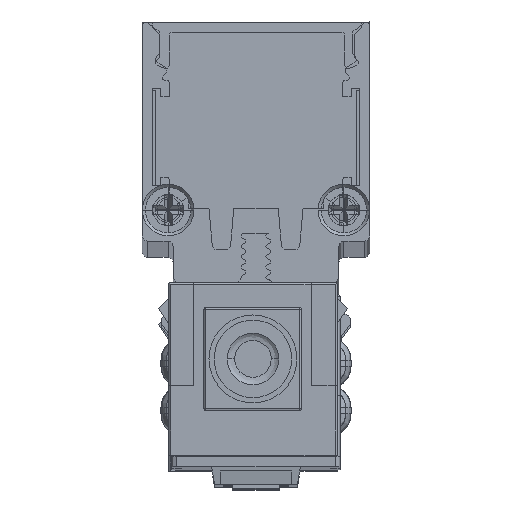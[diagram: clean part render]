
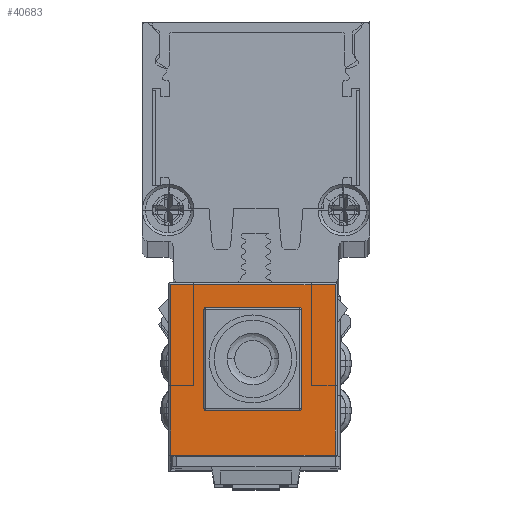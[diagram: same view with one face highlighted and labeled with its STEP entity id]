
A CAD part, top view. The second image highlights one B-rep face of the part: STEP entity #40683.
In plain terms, the highlighted planar face has unit normal (0, 0, 1) as drawn and (-1, 0, 0) by its records, which use the part's own axes.
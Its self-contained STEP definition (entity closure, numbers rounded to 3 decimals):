
#2678 = VERTEX_POINT ( 'NONE', #57426 ) ;
#3668 = CARTESIAN_POINT ( 'NONE',  ( -6.5, -4.75, 2.6 ) ) ;
#4070 = DIRECTION ( 'NONE',  ( 0., 1., 0. ) ) ;
#4099 = CARTESIAN_POINT ( 'NONE',  ( -6.5, 4.75, 16.7 ) ) ;
#4449 = CARTESIAN_POINT ( 'NONE',  ( -6.5, 4.55, 12.4 ) ) ;
#4622 = DIRECTION ( 'NONE',  ( -1., 0., 0. ) ) ;
#5021 = DIRECTION ( 'NONE',  ( -1., 0., 0. ) ) ;
#5292 = FACE_BOUND ( 'NONE', #101853, .T. ) ;
#5752 = VERTEX_POINT ( 'NONE', #4449 ) ;
#7627 = LINE ( 'NONE', #41126, #103900 ) ;
#8562 = LINE ( 'NONE', #42045, #99565 ) ;
#8848 = ORIENTED_EDGE ( 'NONE', *, *, #22516, .F. ) ;
#9521 = ORIENTED_EDGE ( 'NONE', *, *, #64949, .F. ) ;
#9548 = ORIENTED_EDGE ( 'NONE', *, *, #75013, .F. ) ;
#10037 = LINE ( 'NONE', #43530, #71568 ) ;
#10435 = CIRCLE ( 'NONE', #71829, 0.2 ) ;
#11660 = CARTESIAN_POINT ( 'NONE',  ( -6.5, -4.55, 2.6 ) ) ;
#12026 = CARTESIAN_POINT ( 'NONE',  ( -6.5, 8.15, 2.4 ) ) ;
#16811 = VERTEX_POINT ( 'NONE', #22138 ) ;
#18939 = CIRCLE ( 'NONE', #80335, 0.2 ) ;
#19066 = CARTESIAN_POINT ( 'NONE',  ( -6.5, -4.75, 12.2 ) ) ;
#20958 = ORIENTED_EDGE ( 'NONE', *, *, #86404, .F. ) ;
#22138 = CARTESIAN_POINT ( 'NONE',  ( -6.5, 4.75, 2.6 ) ) ;
#22516 = EDGE_CURVE ( 'NONE', #94605, #2678, #87289, .T. ) ;
#25315 = CARTESIAN_POINT ( 'NONE',  ( -6.5, 8.15, 0.2 ) ) ;
#26027 = EDGE_CURVE ( 'NONE', #68580, #16811, #79354, .T. ) ;
#26991 = DIRECTION ( 'NONE',  ( 0., 1., 0. ) ) ;
#28600 = ORIENTED_EDGE ( 'NONE', *, *, #31747, .F. ) ;
#29021 = VERTEX_POINT ( 'NONE', #99338 ) ;
#29368 = VERTEX_POINT ( 'NONE', #66817 ) ;
#30269 = ORIENTED_EDGE ( 'NONE', *, *, #32390, .F. ) ;
#30794 = LINE ( 'NONE', #64298, #33782 ) ;
#31747 = EDGE_CURVE ( 'NONE', #70353, #53339, #8562, .T. ) ;
#32111 = DIRECTION ( 'NONE',  ( 1., 0., 0. ) ) ;
#32356 = EDGE_CURVE ( 'NONE', #38977, #64157, #10037, .T. ) ;
#32390 = EDGE_CURVE ( 'NONE', #64157, #87607, #18939, .T. ) ;
#33339 = VECTOR ( 'NONE', #4070, 1000. ) ;
#33782 = VECTOR ( 'NONE', #97775, 1000. ) ;
#33786 = ORIENTED_EDGE ( 'NONE', *, *, #100997, .F. ) ;
#37592 = DIRECTION ( 'NONE',  ( 0., 0., -1. ) ) ;
#38114 = DIRECTION ( 'NONE',  ( 0., 1., 0. ) ) ;
#38513 = DIRECTION ( 'NONE',  ( 0., 1., 0. ) ) ;
#38801 = FACE_OUTER_BOUND ( 'NONE', #72902, .T. ) ;
#38977 = VERTEX_POINT ( 'NONE', #3668 ) ;
#40683 = ADVANCED_FACE ( 'NONE', ( #5292, #38801 ), #72336, .F. ) ;
#41126 = CARTESIAN_POINT ( 'NONE',  ( -6.5, 0., 16.7 ) ) ;
#42045 = CARTESIAN_POINT ( 'NONE',  ( -6.5, 7.95, 16.7 ) ) ;
#43530 = CARTESIAN_POINT ( 'NONE',  ( -6.5, -4.75, 16.7 ) ) ;
#45165 = DIRECTION ( 'NONE',  ( -1., 0., 0. ) ) ;
#45496 = CIRCLE ( 'NONE', #106864, 0.2 ) ;
#45528 = DIRECTION ( 'NONE',  ( 0., -1., 0. ) ) ;
#45799 = LINE ( 'NONE', #79318, #33339 ) ;
#46407 = AXIS2_PLACEMENT_3D ( 'NONE', #105808, #32111, #65639 ) ;
#47159 = CARTESIAN_POINT ( 'NONE',  ( -6.5, 4.75, 12.2 ) ) ;
#50631 = ORIENTED_EDGE ( 'NONE', *, *, #32356, .F. ) ;
#53339 = VERTEX_POINT ( 'NONE', #58226 ) ;
#55257 = ORIENTED_EDGE ( 'NONE', *, *, #97488, .F. ) ;
#55797 = EDGE_CURVE ( 'NONE', #29368, #29021, #30794, .T. ) ;
#57426 = CARTESIAN_POINT ( 'NONE',  ( -6.5, -4.55, 2.4 ) ) ;
#58226 = CARTESIAN_POINT ( 'NONE',  ( -6.5, 7.95, 16.7 ) ) ;
#58820 = DIRECTION ( 'NONE',  ( 0., 1., 0. ) ) ;
#60621 = AXIS2_PLACEMENT_3D ( 'NONE', #68717, #102198, #26991 ) ;
#60894 = VECTOR ( 'NONE', #37592, 1000. ) ;
#64157 = VERTEX_POINT ( 'NONE', #19066 ) ;
#64298 = CARTESIAN_POINT ( 'NONE',  ( -6.5, -7.95, 16.7 ) ) ;
#64949 = EDGE_CURVE ( 'NONE', #53339, #29368, #7627, .T. ) ;
#65639 = DIRECTION ( 'NONE',  ( 0., 1., 0. ) ) ;
#66700 = ORIENTED_EDGE ( 'NONE', *, *, #70044, .F. ) ;
#66817 = CARTESIAN_POINT ( 'NONE',  ( -6.5, -7.95, 16.7 ) ) ;
#68580 = VERTEX_POINT ( 'NONE', #47159 ) ;
#68717 = CARTESIAN_POINT ( 'NONE',  ( -6.5, 4.55, 12.2 ) ) ;
#70044 = EDGE_CURVE ( 'NONE', #16811, #94605, #45496, .T. ) ;
#70353 = VERTEX_POINT ( 'NONE', #85296 ) ;
#71568 = VECTOR ( 'NONE', #77038, 1000. ) ;
#71829 = AXIS2_PLACEMENT_3D ( 'NONE', #11660, #45165, #78663 ) ;
#72336 = PLANE ( 'NONE',  #46407 ) ;
#72902 = EDGE_LOOP ( 'NONE', ( #55257, #93662, #9521, #28600 ) ) ;
#73139 = VECTOR ( 'NONE', #58820, 1000. ) ;
#74652 = DIRECTION ( 'NONE',  ( 0., -1., 0. ) ) ;
#75013 = EDGE_CURVE ( 'NONE', #87607, #5752, #45799, .T. ) ;
#75585 = DIRECTION ( 'NONE',  ( 0., 0., 1. ) ) ;
#77038 = DIRECTION ( 'NONE',  ( 0., 0., 1. ) ) ;
#78663 = DIRECTION ( 'NONE',  ( 0., 1., 0. ) ) ;
#79318 = CARTESIAN_POINT ( 'NONE',  ( -6.5, 8.15, 12.4 ) ) ;
#79354 = LINE ( 'NONE', #4099, #60894 ) ;
#79891 = CARTESIAN_POINT ( 'NONE',  ( -6.5, 4.55, 2.6 ) ) ;
#80280 = CARTESIAN_POINT ( 'NONE',  ( -6.5, -4.55, 12.2 ) ) ;
#80335 = AXIS2_PLACEMENT_3D ( 'NONE', #80280, #5021, #38513 ) ;
#85296 = CARTESIAN_POINT ( 'NONE',  ( -6.5, 7.95, 0.2 ) ) ;
#86404 = EDGE_CURVE ( 'NONE', #5752, #68580, #107944, .T. ) ;
#87289 = LINE ( 'NONE', #12026, #107447 ) ;
#87607 = VERTEX_POINT ( 'NONE', #88998 ) ;
#88998 = CARTESIAN_POINT ( 'NONE',  ( -6.5, -4.55, 12.4 ) ) ;
#90420 = CARTESIAN_POINT ( 'NONE',  ( -6.5, 4.55, 2.4 ) ) ;
#93662 = ORIENTED_EDGE ( 'NONE', *, *, #55797, .F. ) ;
#94605 = VERTEX_POINT ( 'NONE', #90420 ) ;
#96418 = ORIENTED_EDGE ( 'NONE', *, *, #26027, .F. ) ;
#97488 = EDGE_CURVE ( 'NONE', #29021, #70353, #100516, .T. ) ;
#97775 = DIRECTION ( 'NONE',  ( 0., 0., -1. ) ) ;
#99338 = CARTESIAN_POINT ( 'NONE',  ( -6.5, -7.95, 0.2 ) ) ;
#99565 = VECTOR ( 'NONE', #75585, 1000. ) ;
#100516 = LINE ( 'NONE', #25315, #73139 ) ;
#100997 = EDGE_CURVE ( 'NONE', #2678, #38977, #10435, .T. ) ;
#101853 = EDGE_LOOP ( 'NONE', ( #30269, #50631, #33786, #8848, #66700, #96418, #20958, #9548 ) ) ;
#102198 = DIRECTION ( 'NONE',  ( -1., 0., 0. ) ) ;
#103900 = VECTOR ( 'NONE', #74652, 1000. ) ;
#105808 = CARTESIAN_POINT ( 'NONE',  ( -6.5, 8.15, 16.7 ) ) ;
#106864 = AXIS2_PLACEMENT_3D ( 'NONE', #79891, #4622, #38114 ) ;
#107447 = VECTOR ( 'NONE', #45528, 1000. ) ;
#107944 = CIRCLE ( 'NONE', #60621, 0.2 ) ;
